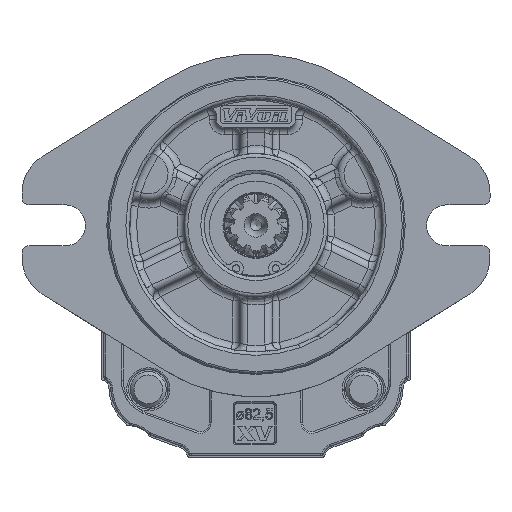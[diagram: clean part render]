
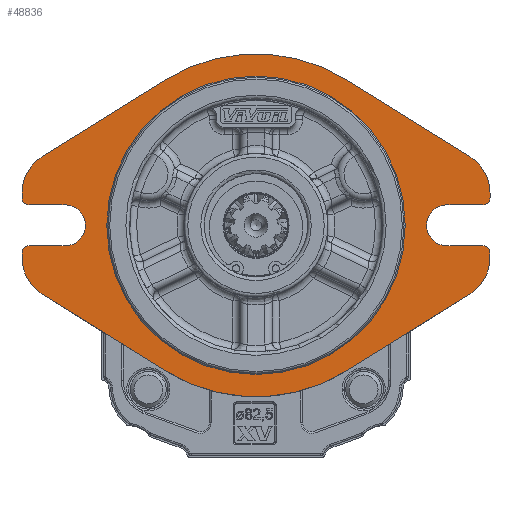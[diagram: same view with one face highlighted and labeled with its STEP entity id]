
A CAD part, front view. The second image highlights one B-rep face of the part: STEP entity #48836.
In plain terms, the highlighted planar face has unit normal (0, -1, 0).
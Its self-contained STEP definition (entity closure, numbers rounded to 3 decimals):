
#2819=LINE('',#68520,#4910);
#2823=LINE('',#68532,#4914);
#2824=LINE('',#68534,#4915);
#2831=LINE('',#68553,#4922);
#2832=LINE('',#68555,#4923);
#2839=LINE('',#68584,#4930);
#2840=LINE('',#68589,#4931);
#2841=LINE('',#68593,#4932);
#2842=LINE('',#68596,#4933);
#2843=LINE('',#68600,#4934);
#2844=LINE('',#68604,#4935);
#2845=LINE('',#68608,#4936);
#4910=VECTOR('',#56349,1000.);
#4914=VECTOR('',#56361,1000.);
#4915=VECTOR('',#56364,1000.);
#4922=VECTOR('',#56379,1000.);
#4923=VECTOR('',#56382,1000.);
#4930=VECTOR('',#56411,1000.);
#4931=VECTOR('',#56414,1000.);
#4932=VECTOR('',#56417,1000.);
#4933=VECTOR('',#56422,1000.);
#4934=VECTOR('',#56425,1000.);
#4935=VECTOR('',#56428,1000.);
#4936=VECTOR('',#56431,1000.);
#6549=PLANE('',#51432);
#10228=ORIENTED_EDGE('',*,*,#19623,.T.);
#10229=ORIENTED_EDGE('',*,*,#19624,.F.);
#10230=ORIENTED_EDGE('',*,*,#19625,.T.);
#10231=ORIENTED_EDGE('',*,*,#19626,.F.);
#10232=ORIENTED_EDGE('',*,*,#19627,.F.);
#10233=ORIENTED_EDGE('',*,*,#19628,.F.);
#10234=ORIENTED_EDGE('',*,*,#19544,.F.);
#10235=ORIENTED_EDGE('',*,*,#19593,.F.);
#10236=ORIENTED_EDGE('',*,*,#19596,.F.);
#10237=ORIENTED_EDGE('',*,*,#19599,.F.);
#10238=ORIENTED_EDGE('',*,*,#19629,.T.);
#10239=ORIENTED_EDGE('',*,*,#19600,.F.);
#10240=ORIENTED_EDGE('',*,*,#19606,.F.);
#10241=ORIENTED_EDGE('',*,*,#19609,.F.);
#10242=ORIENTED_EDGE('',*,*,#19630,.T.);
#10243=ORIENTED_EDGE('',*,*,#19610,.F.);
#10244=ORIENTED_EDGE('',*,*,#19622,.F.);
#10245=ORIENTED_EDGE('',*,*,#19631,.F.);
#10246=ORIENTED_EDGE('',*,*,#19632,.F.);
#10247=ORIENTED_EDGE('',*,*,#19633,.F.);
#10248=ORIENTED_EDGE('',*,*,#19634,.F.);
#10249=ORIENTED_EDGE('',*,*,#19635,.F.);
#10250=ORIENTED_EDGE('',*,*,#19636,.T.);
#10251=ORIENTED_EDGE('',*,*,#19637,.F.);
#10252=ORIENTED_EDGE('',*,*,#19638,.F.);
#19544=EDGE_CURVE('',#24388,#24389,#27213,.T.);
#19593=EDGE_CURVE('',#24431,#24388,#2819,.T.);
#19596=EDGE_CURVE('',#24433,#24431,#27241,.T.);
#19599=EDGE_CURVE('',#24435,#24433,#2823,.T.);
#19600=EDGE_CURVE('',#24436,#24437,#2824,.T.);
#19606=EDGE_CURVE('',#24441,#24436,#27243,.T.);
#19609=EDGE_CURVE('',#24443,#24441,#2831,.T.);
#19610=EDGE_CURVE('',#24444,#24445,#2832,.T.);
#19622=EDGE_CURVE('',#24453,#24444,#27249,.T.);
#19623=EDGE_CURVE('',#24454,#24454,#27250,.T.);
#19624=EDGE_CURVE('',#24455,#24456,#2839,.T.);
#19625=EDGE_CURVE('',#24455,#24457,#27251,.F.);
#19626=EDGE_CURVE('',#24458,#24457,#2840,.T.);
#19627=EDGE_CURVE('',#24459,#24458,#27252,.T.);
#19628=EDGE_CURVE('',#24389,#24459,#2841,.T.);
#19629=EDGE_CURVE('',#24435,#24437,#27253,.F.);
#19630=EDGE_CURVE('',#24443,#24445,#27254,.F.);
#19631=EDGE_CURVE('',#24460,#24453,#2842,.T.);
#19632=EDGE_CURVE('',#24461,#24460,#27255,.T.);
#19633=EDGE_CURVE('',#24462,#24461,#2843,.T.);
#19634=EDGE_CURVE('',#24463,#24462,#27256,.T.);
#19635=EDGE_CURVE('',#24464,#24463,#2844,.T.);
#19636=EDGE_CURVE('',#24464,#24465,#27257,.F.);
#19637=EDGE_CURVE('',#24466,#24465,#2845,.T.);
#19638=EDGE_CURVE('',#24456,#24466,#27258,.T.);
#24388=VERTEX_POINT('',#68420);
#24389=VERTEX_POINT('',#68422);
#24431=VERTEX_POINT('',#68519);
#24433=VERTEX_POINT('',#68525);
#24435=VERTEX_POINT('',#68531);
#24436=VERTEX_POINT('',#68535);
#24437=VERTEX_POINT('',#68536);
#24441=VERTEX_POINT('',#68546);
#24443=VERTEX_POINT('',#68552);
#24444=VERTEX_POINT('',#68556);
#24445=VERTEX_POINT('',#68557);
#24453=VERTEX_POINT('',#68579);
#24454=VERTEX_POINT('',#68583);
#24455=VERTEX_POINT('',#68585);
#24456=VERTEX_POINT('',#68586);
#24457=VERTEX_POINT('',#68588);
#24458=VERTEX_POINT('',#68590);
#24459=VERTEX_POINT('',#68592);
#24460=VERTEX_POINT('',#68597);
#24461=VERTEX_POINT('',#68599);
#24462=VERTEX_POINT('',#68601);
#24463=VERTEX_POINT('',#68603);
#24464=VERTEX_POINT('',#68605);
#24465=VERTEX_POINT('',#68607);
#24466=VERTEX_POINT('',#68609);
#27213=CIRCLE('',#51381,47.75);
#27241=CIRCLE('',#51415,12.);
#27243=CIRCLE('',#51420,5.7);
#27249=CIRCLE('',#51431,12.);
#27250=CIRCLE('',#51433,40.982);
#27251=CIRCLE('',#51434,2.);
#27252=CIRCLE('',#51435,12.);
#27253=CIRCLE('',#51436,2.);
#27254=CIRCLE('',#51437,2.);
#27255=CIRCLE('',#51438,47.75);
#27256=CIRCLE('',#51439,12.);
#27257=CIRCLE('',#51440,2.);
#27258=CIRCLE('',#51441,5.7);
#29083=EDGE_LOOP('',(#10228));
#29084=EDGE_LOOP('',(#10229,#10230,#10231,#10232,#10233,#10234,#10235,#10236,
#10237,#10238,#10239,#10240,#10241,#10242,#10243,#10244,#10245,#10246,#10247,
#10248,#10249,#10250,#10251,#10252));
#31535=FACE_BOUND('',#29083,.T.);
#31536=FACE_BOUND('',#29084,.T.);
#48836=ADVANCED_FACE('',(#31535,#31536),#6549,.F.);
#51381=AXIS2_PLACEMENT_3D('',#68421,#56265,#56266);
#51415=AXIS2_PLACEMENT_3D('',#68526,#56355,#56356);
#51420=AXIS2_PLACEMENT_3D('',#68547,#56373,#56374);
#51431=AXIS2_PLACEMENT_3D('',#68580,#56405,#56406);
#51432=AXIS2_PLACEMENT_3D('',#68581,#56407,#56408);
#51433=AXIS2_PLACEMENT_3D('',#68582,#56409,#56410);
#51434=AXIS2_PLACEMENT_3D('',#68587,#56412,#56413);
#51435=AXIS2_PLACEMENT_3D('',#68591,#56415,#56416);
#51436=AXIS2_PLACEMENT_3D('',#68594,#56418,#56419);
#51437=AXIS2_PLACEMENT_3D('',#68595,#56420,#56421);
#51438=AXIS2_PLACEMENT_3D('',#68598,#56423,#56424);
#51439=AXIS2_PLACEMENT_3D('',#68602,#56426,#56427);
#51440=AXIS2_PLACEMENT_3D('',#68606,#56429,#56430);
#51441=AXIS2_PLACEMENT_3D('',#68610,#56432,#56433);
#56265=DIRECTION('',(0.,1.,0.));
#56266=DIRECTION('',(-1.,0.,0.));
#56349=DIRECTION('',(-0.849,0.,-0.528));
#56355=DIRECTION('',(0.,1.,0.));
#56356=DIRECTION('',(-1.,0.,0.));
#56361=DIRECTION('',(0.,0.,-1.));
#56364=DIRECTION('',(1.,0.,0.));
#56373=DIRECTION('',(0.,-1.,0.));
#56374=DIRECTION('',(1.,0.,0.));
#56379=DIRECTION('',(-1.,0.,0.));
#56382=DIRECTION('',(0.,0.,-1.));
#56405=DIRECTION('',(0.,1.,0.));
#56406=DIRECTION('',(-1.,0.,0.));
#56407=DIRECTION('',(0.,1.,0.));
#56408=DIRECTION('',(0.,0.,-1.));
#56409=DIRECTION('',(0.,1.,0.));
#56410=DIRECTION('',(-1.,0.,0.));
#56411=DIRECTION('',(1.,0.,0.));
#56412=DIRECTION('',(0.,1.,0.));
#56413=DIRECTION('',(0.,0.,-1.));
#56414=DIRECTION('',(0.,0.,1.));
#56415=DIRECTION('',(0.,1.,0.));
#56416=DIRECTION('',(1.,0.,0.));
#56417=DIRECTION('',(-0.849,0.,0.528));
#56418=DIRECTION('',(0.,1.,0.));
#56419=DIRECTION('',(0.,0.,-1.));
#56420=DIRECTION('',(0.,1.,0.));
#56421=DIRECTION('',(0.,0.,-1.));
#56422=DIRECTION('',(0.849,0.,-0.528));
#56423=DIRECTION('',(0.,1.,0.));
#56424=DIRECTION('',(-1.,0.,0.));
#56425=DIRECTION('',(0.849,0.,0.528));
#56426=DIRECTION('',(0.,1.,0.));
#56427=DIRECTION('',(1.,0.,0.));
#56428=DIRECTION('',(0.,0.,1.));
#56429=DIRECTION('',(0.,1.,0.));
#56430=DIRECTION('',(0.,0.,-1.));
#56431=DIRECTION('',(-1.,0.,0.));
#56432=DIRECTION('',(0.,-1.,0.));
#56433=DIRECTION('',(-1.,0.,0.));
#68420=CARTESIAN_POINT('',(25.235,-19.,-24.837));
#68421=CARTESIAN_POINT('',(0.,-19.,15.7));
#68422=CARTESIAN_POINT('',(-25.235,-19.,-24.837));
#68519=CARTESIAN_POINT('',(59.532,-19.,-3.487));
#68520=CARTESIAN_POINT('',(59.532,-19.,-3.487));
#68525=CARTESIAN_POINT('',(65.19,-19.,6.7));
#68526=CARTESIAN_POINT('',(53.19,-19.,6.7));
#68531=CARTESIAN_POINT('',(65.19,-19.,8.));
#68532=CARTESIAN_POINT('',(65.19,-19.,6.7));
#68534=CARTESIAN_POINT('',(53.19,-19.,10.));
#68535=CARTESIAN_POINT('',(53.19,-19.,10.));
#68536=CARTESIAN_POINT('',(63.19,-19.,10.));
#68546=CARTESIAN_POINT('',(53.19,-19.,21.4));
#68547=CARTESIAN_POINT('',(53.19,-19.,15.7));
#68552=CARTESIAN_POINT('',(63.19,-19.,21.4));
#68553=CARTESIAN_POINT('',(53.19,-19.,21.4));
#68555=CARTESIAN_POINT('',(65.19,-19.,24.7));
#68556=CARTESIAN_POINT('',(65.19,-19.,24.7));
#68557=CARTESIAN_POINT('',(65.19,-19.,23.4));
#68579=CARTESIAN_POINT('',(59.532,-19.,34.887));
#68580=CARTESIAN_POINT('',(53.19,-19.,24.7));
#68581=CARTESIAN_POINT('',(0.,-19.,15.7));
#68582=CARTESIAN_POINT('',(0.,-19.,15.7));
#68583=CARTESIAN_POINT('',(-40.982,-19.,15.7));
#68584=CARTESIAN_POINT('',(-53.19,-19.,10.));
#68585=CARTESIAN_POINT('',(-63.19,-19.,10.));
#68586=CARTESIAN_POINT('',(-53.19,-19.,10.));
#68587=CARTESIAN_POINT('',(-63.19,-19.,8.));
#68588=CARTESIAN_POINT('',(-65.19,-19.,8.));
#68589=CARTESIAN_POINT('',(-65.19,-19.,6.7));
#68590=CARTESIAN_POINT('',(-65.19,-19.,6.7));
#68591=CARTESIAN_POINT('',(-53.19,-19.,6.7));
#68592=CARTESIAN_POINT('',(-59.532,-19.,-3.487));
#68593=CARTESIAN_POINT('',(-59.532,-19.,-3.487));
#68594=CARTESIAN_POINT('',(63.19,-19.,8.));
#68595=CARTESIAN_POINT('',(63.19,-19.,23.4));
#68596=CARTESIAN_POINT('',(25.235,-19.,56.237));
#68597=CARTESIAN_POINT('',(25.235,-19.,56.237));
#68598=CARTESIAN_POINT('',(0.,-19.,15.7));
#68599=CARTESIAN_POINT('',(-25.235,-19.,56.237));
#68600=CARTESIAN_POINT('',(-25.235,-19.,56.237));
#68601=CARTESIAN_POINT('',(-59.532,-19.,34.887));
#68602=CARTESIAN_POINT('',(-53.19,-19.,24.7));
#68603=CARTESIAN_POINT('',(-65.19,-19.,24.7));
#68604=CARTESIAN_POINT('',(-65.19,-19.,24.7));
#68605=CARTESIAN_POINT('',(-65.19,-19.,23.4));
#68606=CARTESIAN_POINT('',(-63.19,-19.,23.4));
#68607=CARTESIAN_POINT('',(-63.19,-19.,21.4));
#68608=CARTESIAN_POINT('',(-53.19,-19.,21.4));
#68609=CARTESIAN_POINT('',(-53.19,-19.,21.4));
#68610=CARTESIAN_POINT('',(-53.19,-19.,15.7));
